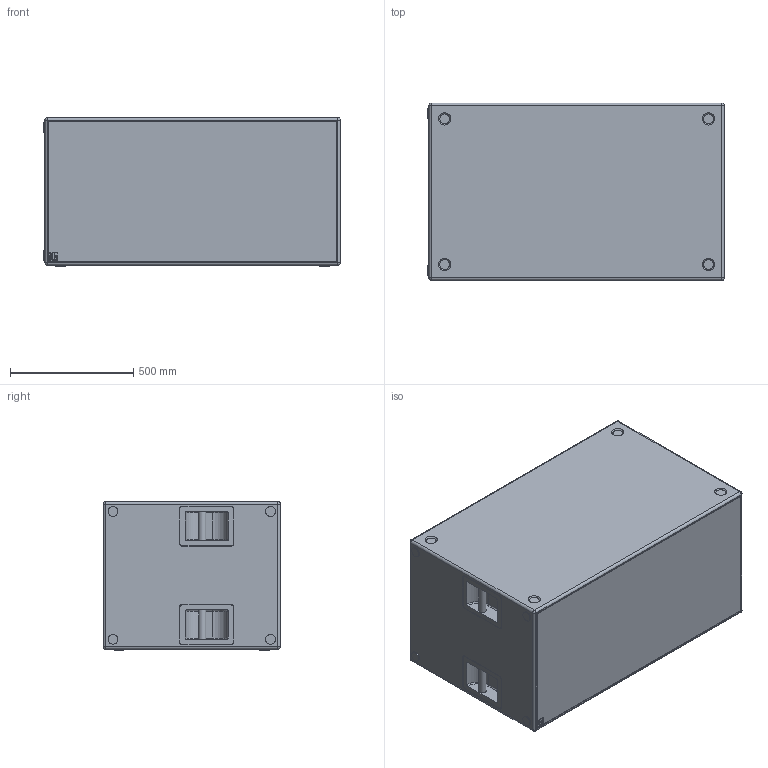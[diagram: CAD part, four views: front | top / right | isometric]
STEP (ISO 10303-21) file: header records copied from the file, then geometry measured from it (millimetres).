
FILE_DESCRIPTION(/* description */ (''),/* implementation_level */ '2;1');
FILE_NAME(/* name */ 'B218.stp',/* time_stamp */ '2024-08-21T16:30:16+02:00',/* author */ ('d.streicher'),/* organization */ (''),/* preprocessor_version */ 'ST-DEVELOPER v20',/* originating_system */ 'Autodesk Inventor 2025',/* authorisation */ '');
FILE_SCHEMA (('AUTOMOTIVE_DESIGN { 1 0 10303 214 3 1 1 }'));
Length unit declared in the file: millimetre
Products named in the file (1): B218
Bounding box: 1205 x 721.5 x 605 mm (x, y, z)
Volume: 513603710.6 mm3; surface area: 4227663.8 mm2
Topology: 1 solids, 1 shells, 228 faces, 522 edges, 332 vertices
Faces by surface type: plane 106, cylinder 86, torus 20, cone 8, sphere 8
Full cylindrical faces by diameter (mm): 22 x2, 30 x4, 40 x8
Entity records: 6776 total; most frequent: DIRECTION 1204, CARTESIAN_POINT 1083, ORIENTED_EDGE 1044, EDGE_CURVE 522, AXIS2_PLACEMENT_3D 453, VERTEX_POINT 332, LINE 298, VECTOR 298
